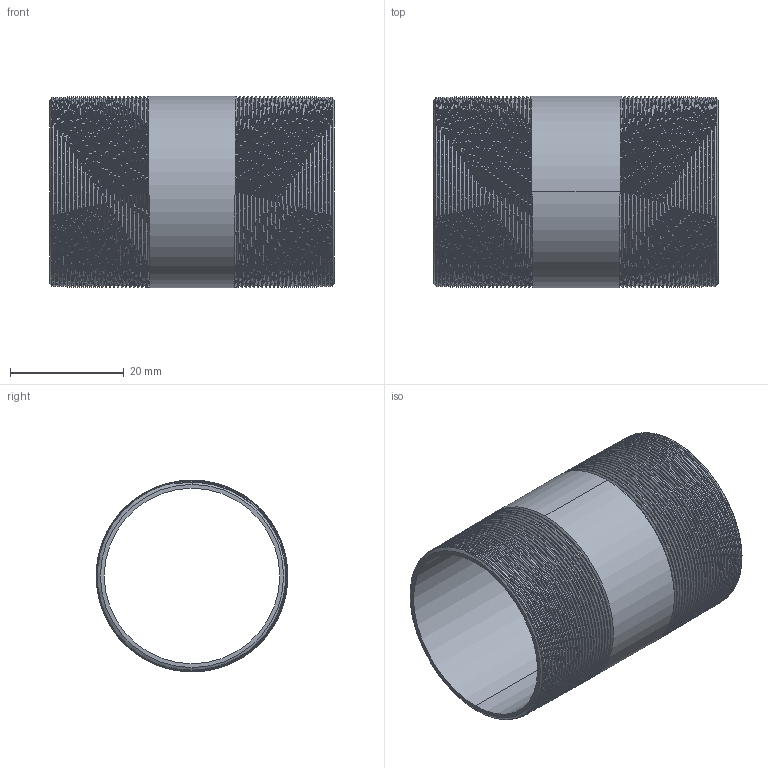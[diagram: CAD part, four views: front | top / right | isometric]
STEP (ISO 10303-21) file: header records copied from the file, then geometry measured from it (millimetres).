
FILE_DESCRIPTION (( 'STEP AP203' ), '1' );
FILE_NAME ('3D_R210_1x50_17148550.STEP', '2024-08-16T10:00:04', ( '' ), ( '' ), 'SwSTEP 2.0', 'SolidWorks 2024', '' );
FILE_SCHEMA (( 'CONFIG_CONTROL_DESIGN' ));
Length unit declared in the file: millimetre
Products named in the file (1): 3D_R210_1x50_17148550
Bounding box: 50 x 33.68 x 33.7 mm (x, y, z)
Volume: 6363 mm3; surface area: 11986.1 mm2
Topology: 1 solids, 1 shells, 116 faces, 336 edges, 222 vertices
Faces by surface type: cone 102, bspline 6, cylinder 4, plane 4
Entity records: 17827 total; most frequent: CARTESIAN_POINT 15139, ORIENTED_EDGE 672, DIRECTION 354, EDGE_CURVE 336, VERTEX_POINT 222, B_SPLINE_CURVE_WITH_KNOTS 206, AXIS2_PLACEMENT_3D 121, EDGE_LOOP 118
